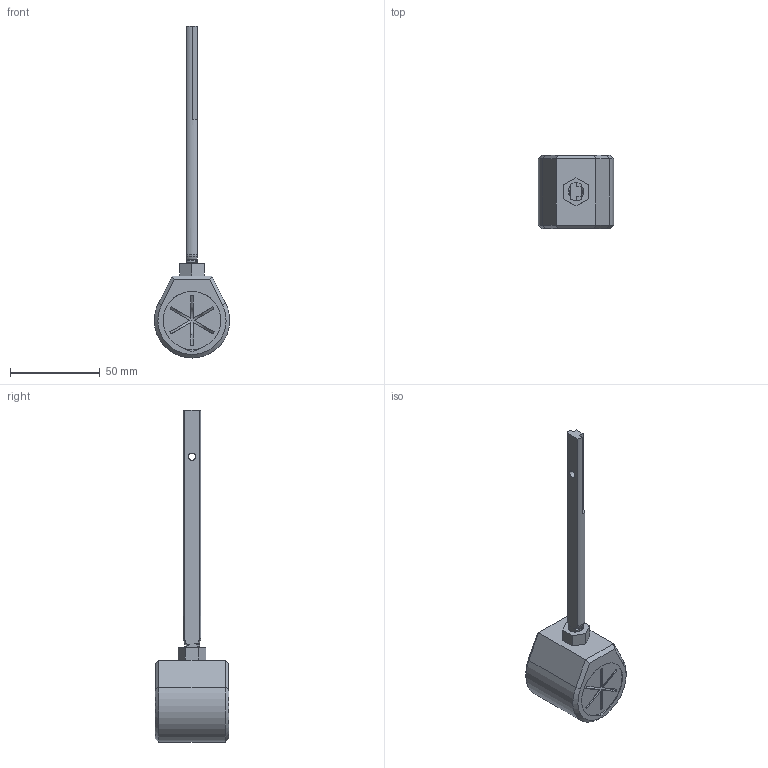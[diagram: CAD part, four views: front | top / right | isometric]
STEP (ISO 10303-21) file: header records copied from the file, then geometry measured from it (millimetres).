
FILE_DESCRIPTION(/* description */ ('STEP AP242','CAx-IF Rec.Pracs.---Representation and Presentation of Product Manufacturing Information (PMI)---4.0---2014-10-13','CAx-IF Rec.Pracs.---3D Tessellated Geometry---0.4---2014-09-14','2;1'),/* implementation_level */ '2;1');
FILE_NAME(/* name */ '68c772f711e1a077a7c38beb',/* time_stamp */ '2025-09-15T01:59:20Z',/* author */ (''),/* organization */ (''),/* preprocessor_version */ 'ST-DEVELOPER v20',/* originating_system */ 'ONSHAPE BY PTC INC, 1.203',/* authorisation */ ' ');
FILE_SCHEMA (('AP242_MANAGED_MODEL_BASED_3D_ENGINEERING_MIM_LF { 1 0 10303 442 1 1 4 }'));
Length unit declared in the file: metre
Products named in the file (4): Rod; TPU Insert; Nut; Catcher Housing
Bounding box: 41.97 x 41 x 185 mm (x, y, z)
Volume: 57214.8 mm3; surface area: 25750 mm2
Topology: 4 solids, 4 shells, 141 faces, 380 edges, 249 vertices
Faces by surface type: plane 57, bspline 36, cylinder 27, torus 13, cone 7, sphere 1
Full cylindrical faces by diameter (mm): 4 x1, 12.7 x1, 25.9 x1, 32.5 x2
Entity records: 10474 total; most frequent: CARTESIAN_POINT 7369, ORIENTED_EDGE 726, DIRECTION 469, EDGE_CURVE 363, VERTEX_POINT 244, AXIS2_PLACEMENT_3D 165, EDGE_LOOP 163, FACE_BOUND 163
